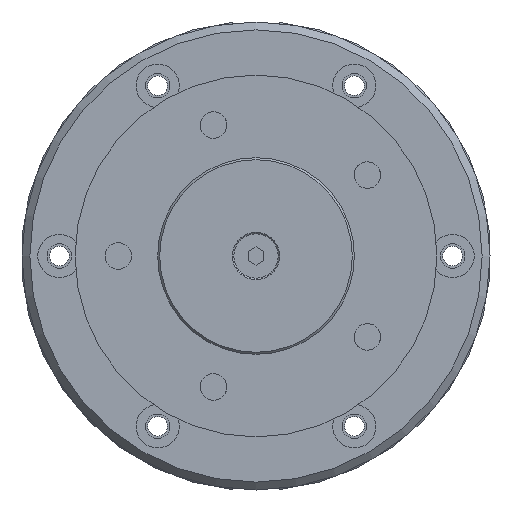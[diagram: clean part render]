
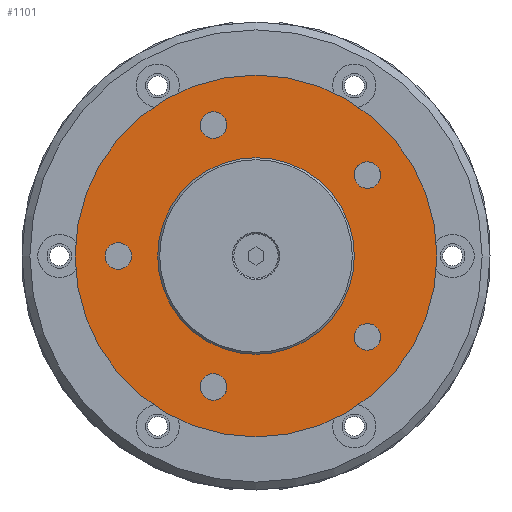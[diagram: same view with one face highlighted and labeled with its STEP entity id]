
A CAD part, left-side view. The second image highlights one B-rep face of the part: STEP entity #1101.
In plain terms, the highlighted planar face has unit normal (-1, 0, 0).
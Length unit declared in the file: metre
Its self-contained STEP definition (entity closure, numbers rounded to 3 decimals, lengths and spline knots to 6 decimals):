
#1101=ADVANCED_FACE('',(#2310,#2311,#2312,#2313,#2314,#2315,#2316),#2317,.T.);
#2310=FACE_BOUND('',#3641,.T.);
#2311=FACE_BOUND('',#3642,.T.);
#2312=FACE_BOUND('',#3643,.T.);
#2313=FACE_BOUND('',#3644,.T.);
#2314=FACE_BOUND('',#3645,.T.);
#2315=FACE_OUTER_BOUND('',#3646,.T.);
#2316=FACE_BOUND('',#3647,.T.);
#2317=PLANE('',#3648);
#3641=EDGE_LOOP('',(#5610));
#3642=EDGE_LOOP('',(#5611));
#3643=EDGE_LOOP('',(#5612));
#3644=EDGE_LOOP('',(#5613));
#3645=EDGE_LOOP('',(#5614));
#3646=EDGE_LOOP('',(#5615));
#3647=EDGE_LOOP('',(#5616));
#3648=AXIS2_PLACEMENT_3D('',#5617,#5618,#5619);
#5610=ORIENTED_EDGE('',*,*,#6485,.T.);
#5611=ORIENTED_EDGE('',*,*,#6578,.T.);
#5612=ORIENTED_EDGE('',*,*,#6579,.T.);
#5613=ORIENTED_EDGE('',*,*,#6358,.T.);
#5614=ORIENTED_EDGE('',*,*,#6580,.T.);
#5615=ORIENTED_EDGE('',*,*,#6581,.T.);
#5616=ORIENTED_EDGE('',*,*,#6582,.F.);
#5617=CARTESIAN_POINT('',(-0.054888,0.036916,0.0));
#5618=DIRECTION('',(-1.0,0.,0.0));
#5619=DIRECTION('',(0.,-1.0,0.0));
#6358=EDGE_CURVE('',#7378,#7378,#7379,.T.);
#6485=EDGE_CURVE('',#7559,#7559,#7560,.T.);
#6578=EDGE_CURVE('',#7674,#7674,#7675,.T.);
#6579=EDGE_CURVE('',#7676,#7676,#7677,.T.);
#6580=EDGE_CURVE('',#7678,#7678,#7679,.T.);
#6581=EDGE_CURVE('',#7680,#7680,#7681,.T.);
#6582=EDGE_CURVE('',#7682,#7682,#7683,.T.);
#7378=VERTEX_POINT('',#9198);
#7379=CIRCLE('',#9199,0.003375);
#7559=VERTEX_POINT('',#9413);
#7560=CIRCLE('',#9414,0.003375);
#7674=VERTEX_POINT('',#9535);
#7675=CIRCLE('',#9536,0.003375);
#7676=VERTEX_POINT('',#9537);
#7677=CIRCLE('',#9538,0.003375);
#7678=VERTEX_POINT('',#9539);
#7679=CIRCLE('',#9540,0.003375);
#7680=VERTEX_POINT('',#9541);
#7681=CIRCLE('',#9542,0.046);
#7682=VERTEX_POINT('',#9543);
#7683=CIRCLE('',#9544,0.015);
#9198=CARTESIAN_POINT('',(-0.054888,0.031688,-0.030077));
#9199=AXIS2_PLACEMENT_3D('',#10234,#10235,#10236);
#9413=CARTESIAN_POINT('',(-0.054888,0.031688,0.030077));
#9414=AXIS2_PLACEMENT_3D('',#10397,#10398,#10399);
#9535=CARTESIAN_POINT('',(-0.054888,-0.00367,0.018589));
#9536=AXIS2_PLACEMENT_3D('',#10476,#10477,#10478);
#9537=CARTESIAN_POINT('',(-0.054888,-0.00367,-0.018589));
#9538=AXIS2_PLACEMENT_3D('',#10479,#10480,#10481);
#9539=CARTESIAN_POINT('',(-0.054888,0.053541,0.0));
#9540=AXIS2_PLACEMENT_3D('',#10482,#10483,#10484);
#9541=CARTESIAN_POINT('',(-0.054888,-0.024084,0.0));
#9542=AXIS2_PLACEMENT_3D('',#10485,#10486,#10487);
#9543=CARTESIAN_POINT('',(-0.054888,0.006916,0.0));
#9544=AXIS2_PLACEMENT_3D('',#10488,#10489,#10490);
#10234=CARTESIAN_POINT('',(-0.054888,0.032731,-0.033287));
#10235=DIRECTION('',(1.0,0.,0.));
#10236=DIRECTION('',(0.,-0.309,0.951));
#10397=CARTESIAN_POINT('',(-0.054888,0.032731,0.033287));
#10398=DIRECTION('',(1.0,0.,0.));
#10399=DIRECTION('',(0.,-0.309,-0.951));
#10476=CARTESIAN_POINT('',(-0.054888,-0.0064,0.020572));
#10477=DIRECTION('',(1.0,0.,0.));
#10478=DIRECTION('',(0.,0.809,-0.588));
#10479=CARTESIAN_POINT('',(-0.054888,-0.0064,-0.020572));
#10480=DIRECTION('',(1.0,0.,0.));
#10481=DIRECTION('',(0.,0.809,0.588));
#10482=CARTESIAN_POINT('',(-0.054888,0.056916,0.0));
#10483=DIRECTION('',(1.0,0.,0.0));
#10484=DIRECTION('',(0.,-1.0,0.0));
#10485=CARTESIAN_POINT('',(-0.054888,0.021916,0.0));
#10486=DIRECTION('',(-1.0,0.,0.0));
#10487=DIRECTION('',(0.,-1.0,0.0));
#10488=CARTESIAN_POINT('',(-0.054888,0.021916,0.0));
#10489=DIRECTION('',(-1.0,0.,0.0));
#10490=DIRECTION('',(0.,-1.0,0.0));
